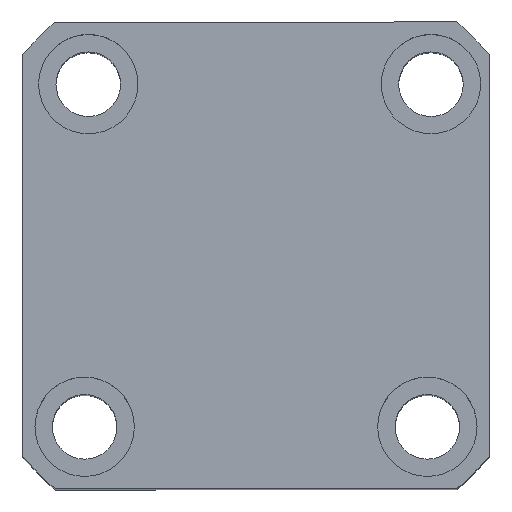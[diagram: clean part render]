
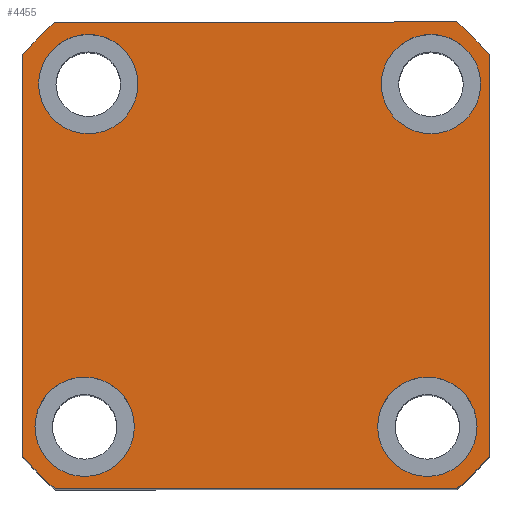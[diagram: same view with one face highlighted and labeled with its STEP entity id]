
A CAD part, top view. The second image highlights one B-rep face of the part: STEP entity #4455.
In plain terms, the highlighted planar face has unit normal (0, 0, 1) as drawn and (0, 0, -1) by its records, which use the part's own axes.
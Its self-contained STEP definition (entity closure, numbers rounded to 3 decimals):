
#138 = DIRECTION ( 'NONE',  ( 0., 0., -1. ) ) ;
#168 = EDGE_CURVE ( 'NONE', #646, #7932, #8779, .T. ) ;
#191 = EDGE_LOOP ( 'NONE', ( #14788, #15243, #8772, #5974, #13712, #10799, #15346, #12516 ) ) ;
#196 = CIRCLE ( 'NONE', #3153, 10. ) ;
#218 = DIRECTION ( 'NONE',  ( 0., 0., -1. ) ) ;
#343 = LINE ( 'NONE', #6738, #3986 ) ;
#503 = VECTOR ( 'NONE', #1907, 1000. ) ;
#646 = VERTEX_POINT ( 'NONE', #13710 ) ;
#984 = DIRECTION ( 'NONE',  ( 1., 0., 0. ) ) ;
#1095 = DIRECTION ( 'NONE',  ( 0., 0., -1. ) ) ;
#1224 = DIRECTION ( 'NONE',  ( 0., -1., 0. ) ) ;
#1284 = AXIS2_PLACEMENT_3D ( 'NONE', #10585, #2370, #11951 ) ;
#1534 = CARTESIAN_POINT ( 'NONE',  ( -23.77, -34.5, 0. ) ) ;
#1550 = VERTEX_POINT ( 'NONE', #5122 ) ;
#1653 = AXIS2_PLACEMENT_3D ( 'NONE', #11105, #2908, #12473 ) ;
#1751 = DIRECTION ( 'NONE',  ( 0., 0., 1. ) ) ;
#1907 = DIRECTION ( 'NONE',  ( -1., 0., 0. ) ) ;
#2155 = CARTESIAN_POINT ( 'NONE',  ( 34.5, 34.5, 0. ) ) ;
#2229 = AXIS2_PLACEMENT_3D ( 'NONE', #9963, #1751, #11347 ) ;
#2370 = DIRECTION ( 'NONE',  ( 0., 0., 1. ) ) ;
#2398 = CIRCLE ( 'NONE', #1653, 10. ) ;
#2416 = CIRCLE ( 'NONE', #2229, 62. ) ;
#2548 = VERTEX_POINT ( 'NONE', #4526 ) ;
#2863 = VECTOR ( 'NONE', #7036, 1000. ) ;
#2908 = DIRECTION ( 'NONE',  ( 0., 0., -1. ) ) ;
#3074 = EDGE_CURVE ( 'NONE', #5909, #2548, #12834, .T. ) ;
#3153 = AXIS2_PLACEMENT_3D ( 'NONE', #12135, #3944, #13526 ) ;
#3249 = CARTESIAN_POINT ( 'NONE',  ( 35.23, -34.5, 0. ) ) ;
#3385 = AXIS2_PLACEMENT_3D ( 'NONE', #8349, #138, #9721 ) ;
#3509 = EDGE_CURVE ( 'NONE', #6411, #10266, #14794, .T. ) ;
#3551 = DIRECTION ( 'NONE',  ( -1., 0., 0. ) ) ;
#3634 = EDGE_CURVE ( 'NONE', #2548, #5909, #196, .T. ) ;
#3856 = VERTEX_POINT ( 'NONE', #15228 ) ;
#3944 = DIRECTION ( 'NONE',  ( 0., 0., -1. ) ) ;
#3977 = CARTESIAN_POINT ( 'NONE',  ( 25.23, -34.5, 0. ) ) ;
#3986 = VECTOR ( 'NONE', #1224, 1000. ) ;
#4039 = FACE_BOUND ( 'NONE', #4684, .T. ) ;
#4108 = CARTESIAN_POINT ( 'NONE',  ( -24.5, 34.5, 0. ) ) ;
#4209 = DIRECTION ( 'NONE',  ( 0., 0., -1. ) ) ;
#4455 = ADVANCED_FACE ( 'NONE', ( #17808, #13681, #4039, #10037, #6379 ), #17440, .F. ) ;
#4526 = CARTESIAN_POINT ( 'NONE',  ( -43.77, -34.5, 0. ) ) ;
#4619 = DIRECTION ( 'NONE',  ( -1., 0., 0. ) ) ;
#4684 = EDGE_LOOP ( 'NONE', ( #6957, #13969 ) ) ;
#4852 = EDGE_CURVE ( 'NONE', #14469, #7263, #15212, .T. ) ;
#4996 = EDGE_LOOP ( 'NONE', ( #7499, #14349 ) ) ;
#5012 = CARTESIAN_POINT ( 'NONE',  ( -40.435, -47., 0. ) ) ;
#5122 = CARTESIAN_POINT ( 'NONE',  ( 45.23, -34.5, 0. ) ) ;
#5553 = ORIENTED_EDGE ( 'NONE', *, *, #15622, .F. ) ;
#5615 = DIRECTION ( 'NONE',  ( 0., 0., 1. ) ) ;
#5659 = EDGE_CURVE ( 'NONE', #12639, #6411, #343, .T. ) ;
#5840 = CIRCLE ( 'NONE', #7603, 10. ) ;
#5909 = VERTEX_POINT ( 'NONE', #1534 ) ;
#5974 = ORIENTED_EDGE ( 'NONE', *, *, #15705, .F. ) ;
#6078 = CIRCLE ( 'NONE', #10377, 10. ) ;
#6379 = FACE_OUTER_BOUND ( 'NONE', #191, .T. ) ;
#6411 = VERTEX_POINT ( 'NONE', #8469 ) ;
#6684 = EDGE_CURVE ( 'NONE', #1550, #14392, #7820, .T. ) ;
#6738 = CARTESIAN_POINT ( 'NONE',  ( -47., 47., 0. ) ) ;
#6957 = ORIENTED_EDGE ( 'NONE', *, *, #17524, .F. ) ;
#7036 = DIRECTION ( 'NONE',  ( 1., 0., 0. ) ) ;
#7168 = CARTESIAN_POINT ( 'NONE',  ( -47., -47., 0. ) ) ;
#7263 = VERTEX_POINT ( 'NONE', #4108 ) ;
#7499 = ORIENTED_EDGE ( 'NONE', *, *, #4852, .F. ) ;
#7513 = CARTESIAN_POINT ( 'NONE',  ( -40.435, 47., 0. ) ) ;
#7603 = AXIS2_PLACEMENT_3D ( 'NONE', #2155, #11736, #3551 ) ;
#7786 = LINE ( 'NONE', #15663, #503 ) ;
#7820 = CIRCLE ( 'NONE', #10956, 10. ) ;
#7932 = VERTEX_POINT ( 'NONE', #13781 ) ;
#7955 = EDGE_CURVE ( 'NONE', #12623, #12639, #12738, .T. ) ;
#8191 = VECTOR ( 'NONE', #10599, 1000. ) ;
#8346 = CARTESIAN_POINT ( 'NONE',  ( -44.5, 34.5, 0. ) ) ;
#8349 = CARTESIAN_POINT ( 'NONE',  ( -34.5, 34.5, 0. ) ) ;
#8357 = ORIENTED_EDGE ( 'NONE', *, *, #3074, .F. ) ;
#8424 = CARTESIAN_POINT ( 'NONE',  ( 35.23, -34.5, 0. ) ) ;
#8441 = CARTESIAN_POINT ( 'NONE',  ( 44.5, 34.5, 0. ) ) ;
#8469 = CARTESIAN_POINT ( 'NONE',  ( -47., -40.435, 0. ) ) ;
#8533 = EDGE_CURVE ( 'NONE', #10908, #17664, #6078, .T. ) ;
#8772 = ORIENTED_EDGE ( 'NONE', *, *, #168, .F. ) ;
#8779 = CIRCLE ( 'NONE', #10975, 62. ) ;
#9178 = DIRECTION ( 'NONE',  ( 0., 0., 1. ) ) ;
#9297 = CARTESIAN_POINT ( 'NONE',  ( 34.5, 34.5, 0. ) ) ;
#9721 = DIRECTION ( 'NONE',  ( -1., 0., 0. ) ) ;
#9800 = AXIS2_PLACEMENT_3D ( 'NONE', #13856, #5615, #15247 ) ;
#9801 = DIRECTION ( 'NONE',  ( -1., 0., 0. ) ) ;
#9935 = EDGE_CURVE ( 'NONE', #3856, #12623, #7786, .T. ) ;
#9963 = CARTESIAN_POINT ( 'NONE',  ( 0., 0., 0. ) ) ;
#10037 = FACE_BOUND ( 'NONE', #4996, .T. ) ;
#10063 = ORIENTED_EDGE ( 'NONE', *, *, #6684, .F. ) ;
#10167 = VERTEX_POINT ( 'NONE', #17340 ) ;
#10266 = VERTEX_POINT ( 'NONE', #5012 ) ;
#10377 = AXIS2_PLACEMENT_3D ( 'NONE', #9297, #1095, #10684 ) ;
#10585 = CARTESIAN_POINT ( 'NONE',  ( 0., 0., 0. ) ) ;
#10599 = DIRECTION ( 'NONE',  ( 0., 1., 0. ) ) ;
#10684 = DIRECTION ( 'NONE',  ( -1., 0., 0. ) ) ;
#10799 = ORIENTED_EDGE ( 'NONE', *, *, #5659, .F. ) ;
#10908 = VERTEX_POINT ( 'NONE', #8441 ) ;
#10956 = AXIS2_PLACEMENT_3D ( 'NONE', #3249, #12812, #4619 ) ;
#10975 = AXIS2_PLACEMENT_3D ( 'NONE', #14596, #13553, #13310 ) ;
#11105 = CARTESIAN_POINT ( 'NONE',  ( -34.5, 34.5, 0. ) ) ;
#11347 = DIRECTION ( 'NONE',  ( 1., 0., 0. ) ) ;
#11703 = CARTESIAN_POINT ( 'NONE',  ( -47., 40.435, 0. ) ) ;
#11734 = AXIS2_PLACEMENT_3D ( 'NONE', #12387, #4209, #13789 ) ;
#11736 = DIRECTION ( 'NONE',  ( 0., 0., -1. ) ) ;
#11797 = CARTESIAN_POINT ( 'NONE',  ( 24.5, 34.5, 0. ) ) ;
#11858 = EDGE_CURVE ( 'NONE', #10167, #3856, #2416, .T. ) ;
#11951 = DIRECTION ( 'NONE',  ( 1., 0., 0. ) ) ;
#11963 = CARTESIAN_POINT ( 'NONE',  ( 47., 47., 0. ) ) ;
#12135 = CARTESIAN_POINT ( 'NONE',  ( -33.77, -34.5, 0. ) ) ;
#12387 = CARTESIAN_POINT ( 'NONE',  ( -33.77, -34.5, 0. ) ) ;
#12432 = EDGE_LOOP ( 'NONE', ( #5553, #10063 ) ) ;
#12473 = DIRECTION ( 'NONE',  ( -1., 0., 0. ) ) ;
#12516 = ORIENTED_EDGE ( 'NONE', *, *, #9935, .F. ) ;
#12623 = VERTEX_POINT ( 'NONE', #7513 ) ;
#12639 = VERTEX_POINT ( 'NONE', #11703 ) ;
#12654 = EDGE_LOOP ( 'NONE', ( #13110, #8357 ) ) ;
#12738 = CIRCLE ( 'NONE', #9800, 62. ) ;
#12812 = DIRECTION ( 'NONE',  ( 0., 0., -1. ) ) ;
#12834 = CIRCLE ( 'NONE', #11734, 10. ) ;
#13110 = ORIENTED_EDGE ( 'NONE', *, *, #3634, .F. ) ;
#13235 = EDGE_CURVE ( 'NONE', #7263, #14469, #2398, .T. ) ;
#13256 = CARTESIAN_POINT ( 'NONE',  ( 0., 0., 0. ) ) ;
#13310 = DIRECTION ( 'NONE',  ( 1., 0., 0. ) ) ;
#13526 = DIRECTION ( 'NONE',  ( -1., 0., 0. ) ) ;
#13553 = DIRECTION ( 'NONE',  ( 0., 0., 1. ) ) ;
#13681 = FACE_BOUND ( 'NONE', #12432, .T. ) ;
#13710 = CARTESIAN_POINT ( 'NONE',  ( 40.435, -47., 0. ) ) ;
#13712 = ORIENTED_EDGE ( 'NONE', *, *, #3509, .F. ) ;
#13781 = CARTESIAN_POINT ( 'NONE',  ( 47., -40.435, 0. ) ) ;
#13789 = DIRECTION ( 'NONE',  ( -1., 0., 0. ) ) ;
#13797 = LINE ( 'NONE', #7168, #2863 ) ;
#13856 = CARTESIAN_POINT ( 'NONE',  ( 0., 0., 0. ) ) ;
#13969 = ORIENTED_EDGE ( 'NONE', *, *, #8533, .F. ) ;
#14232 = CIRCLE ( 'NONE', #17193, 10. ) ;
#14349 = ORIENTED_EDGE ( 'NONE', *, *, #13235, .F. ) ;
#14392 = VERTEX_POINT ( 'NONE', #3977 ) ;
#14469 = VERTEX_POINT ( 'NONE', #8346 ) ;
#14596 = CARTESIAN_POINT ( 'NONE',  ( 0., 0., 0. ) ) ;
#14754 = AXIS2_PLACEMENT_3D ( 'NONE', #13256, #9178, #984 ) ;
#14788 = ORIENTED_EDGE ( 'NONE', *, *, #11858, .F. ) ;
#14794 = CIRCLE ( 'NONE', #1284, 62. ) ;
#15212 = CIRCLE ( 'NONE', #3385, 10. ) ;
#15228 = CARTESIAN_POINT ( 'NONE',  ( 40.435, 47., 0. ) ) ;
#15243 = ORIENTED_EDGE ( 'NONE', *, *, #17773, .F. ) ;
#15247 = DIRECTION ( 'NONE',  ( 1., 0., 0. ) ) ;
#15346 = ORIENTED_EDGE ( 'NONE', *, *, #7955, .F. ) ;
#15521 = LINE ( 'NONE', #11963, #8191 ) ;
#15622 = EDGE_CURVE ( 'NONE', #14392, #1550, #14232, .T. ) ;
#15663 = CARTESIAN_POINT ( 'NONE',  ( -47., 47., 0. ) ) ;
#15705 = EDGE_CURVE ( 'NONE', #10266, #646, #13797, .T. ) ;
#17193 = AXIS2_PLACEMENT_3D ( 'NONE', #8424, #218, #9801 ) ;
#17340 = CARTESIAN_POINT ( 'NONE',  ( 47., 40.435, 0. ) ) ;
#17440 = PLANE ( 'NONE',  #14754 ) ;
#17524 = EDGE_CURVE ( 'NONE', #17664, #10908, #5840, .T. ) ;
#17664 = VERTEX_POINT ( 'NONE', #11797 ) ;
#17773 = EDGE_CURVE ( 'NONE', #7932, #10167, #15521, .T. ) ;
#17808 = FACE_BOUND ( 'NONE', #12654, .T. ) ;
